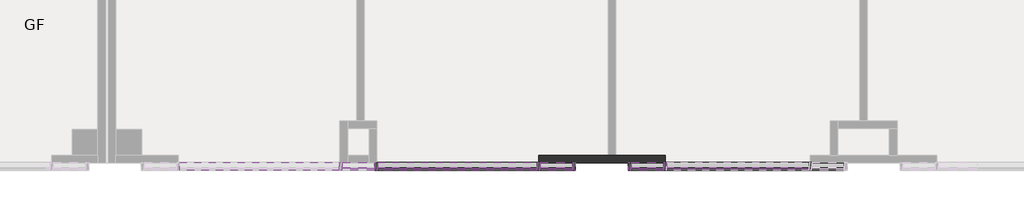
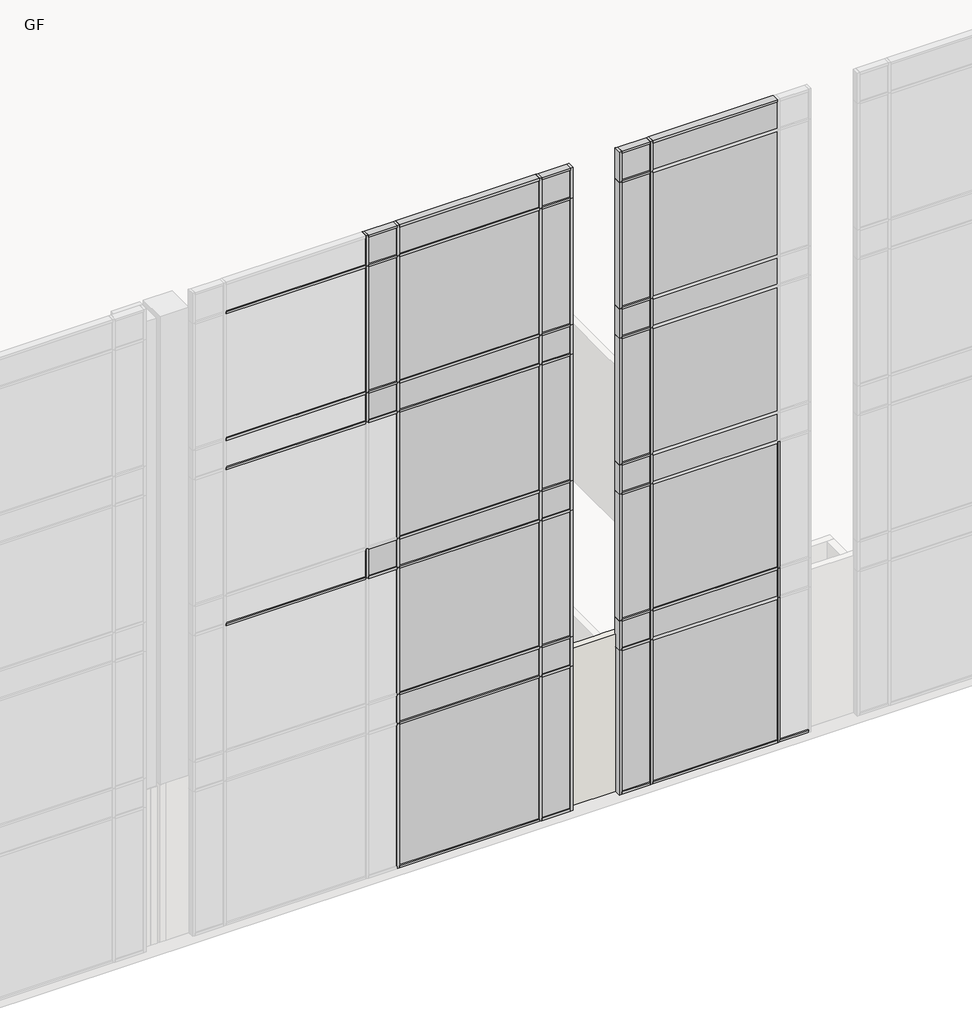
# One storey, part 8 of 23: 87 members, 36 plates, 1 wall.
"""IFC4 building model written with IfcOpenShell, lengths in millimetres."""

from ifc_helpers import new_model, si_unit, origin, place, context, project, spatial, faceted_brep, transform, mapped, element, save
from components import rectangular_mullion_50_x_150mm_64d38db8, rectangular_mullion_50_x_150mm_68b3818a, rectangular_mullion_50_x_150mm_350c86c2, rectangular_mullion_50_x_150mm_f245f1eb, rectangular_mullion_50_x_150mm_5fdcfccd, rectangular_mullion_50_x_150mm_d11e3bb4, rectangular_mullion_50_x_150mm_7d543e93, rectangular_mullion_50_x_150mm_9e0f1e24, rectangular_mullion_50_x_150mm_a95743fc, rectangular_mullion_50_x_150mm_dbb82e9e, rectangular_mullion_50_x_150mm_32aaa733, rectangular_mullion_50_x_150mm_9b8962c0, rectangular_mullion_50_x_150mm_2ef494cb, rectangular_mullion_50_x_150mm_4ae6e471, system_panel_glazed_f9f902e6, system_panel_glazed_bf1ddb54, system_panel_glazed_6ff5b55b, system_panel_glazed_2a2db0e8, system_panel_glazed_93ed122c, system_panel_glazed_c1421171, system_panel_glazed_123eee61, system_panel_glazed_ddb5812e, system_panel_glazed_21c84cce

model = new_model("IFC4")

# Units and contexts
model_context = context("Model", 3, world=origin())
ifc_project = project(units=[si_unit("LENGTHUNIT", "METRE", prefix="MILLI")], contexts=[model_context])

# Site, building, storey
site = spatial("IfcSite", under=ifc_project)
building = spatial("IfcBuilding", under=site)
storey = spatial("IfcBuildingStorey", under=building, Name="GF", Elevation=900.0)

# Members
placement = place(None, origin())
rectangular_mullion_50_x_150mm_shape = rectangular_mullion_50_x_150mm_64d38db8(model_context)
element("IfcMember", 1, ObjectType="Rectangular Mullion : 50 x 150mm", at=placement, inside=storey, context=model_context, shape_type="MappedRepresentation", body=[
    mapped(rectangular_mullion_50_x_150mm_shape, transform((11277.4134101, -25897.6148653, 15125.0), x_axis=(0.0, 0.0, 1.0), y_axis=(0.0, -1.0, 0.0), z_axis=(1.0, 0.0, 0.0))),
])
element("IfcMember", 2, ObjectType="Rectangular Mullion : 50 x 150mm", at=placement, inside=storey, context=model_context, shape_type="MappedRepresentation", body=[
    mapped(rectangular_mullion_50_x_150mm_shape, transform((9607.4134101, -25897.6148653, 15125.0), x_axis=(0.0, 0.0, 1.0), y_axis=(0.0, -1.0, 0.0), z_axis=(1.0, 0.0, 0.0))),
])
element("IfcMember", 3, ObjectType="Rectangular Mullion : 50 x 150mm", at=placement, inside=storey, context=model_context, shape_type="MappedRepresentation", body=[
    mapped(rectangular_mullion_50_x_150mm_shape, transform((5974.9134101, -25897.6148653, 15125.0), x_axis=(0.0, 0.0, 1.0), y_axis=(0.0, -1.0, 0.0), z_axis=(1.0, 0.0, 0.0))),
])
element("IfcMember", 4, ObjectType="Rectangular Mullion : 50 x 150mm", at=placement, inside=storey, context=model_context, shape_type="MappedRepresentation", body=[
    mapped(rectangular_mullion_50_x_150mm_shape, transform((10677.4134101, -25897.6148653, 900.0), x_axis=(0.0, 0.0, -1.0), y_axis=(0.0, -1.0, 0.0), z_axis=(-1.0, 0.0, 0.0))),
])
element("IfcMember", 5, ObjectType="Rectangular Mullion : 50 x 150mm", at=placement, inside=storey, context=model_context, shape_type="MappedRepresentation", body=[
    mapped(rectangular_mullion_50_x_150mm_shape, transform((13992.4134101, -25897.6148653, 900.0), x_axis=(0.0, 0.0, -1.0), y_axis=(0.0, -1.0, 0.0), z_axis=(-1.0, 0.0, 0.0))),
])
element("IfcMember", 6, ObjectType="Rectangular Mullion : 50 x 150mm", at=placement, inside=storey, context=model_context, shape_type="MappedRepresentation", body=[
    mapped(rectangular_mullion_50_x_150mm_shape, transform((9007.4134101, -25897.6148653, 900.0), x_axis=(0.0, 0.0, -1.0), y_axis=(0.0, -1.0, 0.0), z_axis=(-1.0, 0.0, 0.0))),
])
rectangular_mullion_50_x_150mm_2_shape = rectangular_mullion_50_x_150mm_68b3818a(model_context)
element("IfcMember", 7, ObjectType="Rectangular Mullion : 50 x 150mm", at=placement, inside=storey, context=model_context, shape_type="MappedRepresentation", body=[
    mapped(rectangular_mullion_50_x_150mm_2_shape, transform((11277.4134101, -25897.6148653, 4750.0), x_axis=(0.0, 0.0, 1.0), y_axis=(0.0, -1.0, 0.0), z_axis=(1.0, 0.0, 0.0))),
])
element("IfcMember", 8, ObjectType="Rectangular Mullion : 50 x 150mm", at=placement, inside=storey, context=model_context, shape_type="MappedRepresentation", body=[
    mapped(rectangular_mullion_50_x_150mm_2_shape, transform((11277.4134101, -25897.6148653, 4100.0), x_axis=(0.0, 0.0, 1.0), y_axis=(0.0, -1.0, 0.0), z_axis=(1.0, 0.0, 0.0))),
])
element("IfcMember", 9, ObjectType="Rectangular Mullion : 50 x 150mm", at=placement, inside=storey, context=model_context, shape_type="MappedRepresentation", body=[
    mapped(rectangular_mullion_50_x_150mm_2_shape, transform((11277.4134101, -25897.6148653, 8200.0), x_axis=(0.0, 0.0, 1.0), y_axis=(0.0, -1.0, 0.0), z_axis=(1.0, 0.0, 0.0))),
])
element("IfcMember", 10, ObjectType="Rectangular Mullion : 50 x 150mm", at=placement, inside=storey, context=model_context, shape_type="MappedRepresentation", body=[
    mapped(rectangular_mullion_50_x_150mm_2_shape, transform((11277.4134101, -25897.6148653, 11650.0), x_axis=(0.0, 0.0, 1.0), y_axis=(0.0, -1.0, 0.0), z_axis=(1.0, 0.0, 0.0))),
])
element("IfcMember", 11, ObjectType="Rectangular Mullion : 50 x 150mm", at=placement, inside=storey, context=model_context, shape_type="MappedRepresentation", body=[
    mapped(rectangular_mullion_50_x_150mm_2_shape, transform((11277.4134101, -25897.6148653, 7550.0), x_axis=(0.0, 0.0, 1.0), y_axis=(0.0, -1.0, 0.0), z_axis=(1.0, 0.0, 0.0))),
])
element("IfcMember", 12, ObjectType="Rectangular Mullion : 50 x 150mm", at=placement, inside=storey, context=model_context, shape_type="MappedRepresentation", body=[
    mapped(rectangular_mullion_50_x_150mm_2_shape, transform((11277.4134101, -25897.6148653, 11000.0), x_axis=(0.0, 0.0, 1.0), y_axis=(0.0, -1.0, 0.0), z_axis=(1.0, 0.0, 0.0))),
])
element("IfcMember", 13, ObjectType="Rectangular Mullion : 50 x 150mm", at=placement, inside=storey, context=model_context, shape_type="MappedRepresentation", body=[
    mapped(rectangular_mullion_50_x_150mm_2_shape, transform((11277.4134101, -25897.6148653, 14450.0), x_axis=(0.0, 0.0, 1.0), y_axis=(0.0, -1.0, 0.0), z_axis=(1.0, 0.0, 0.0))),
])
element("IfcMember", 14, ObjectType="Rectangular Mullion : 50 x 150mm", at=placement, inside=storey, context=model_context, shape_type="MappedRepresentation", body=[
    mapped(rectangular_mullion_50_x_150mm_2_shape, transform((5974.9134101, -25897.6148653, 11650.0), x_axis=(0.0, 0.0, 1.0), y_axis=(0.0, -1.0, 0.0), z_axis=(1.0, 0.0, 0.0))),
])
element("IfcMember", 15, ObjectType="Rectangular Mullion : 50 x 150mm", at=placement, inside=storey, context=model_context, shape_type="MappedRepresentation", body=[
    mapped(rectangular_mullion_50_x_150mm_2_shape, transform((5974.9134101, -25897.6148653, 7550.0), x_axis=(0.0, 0.0, 1.0), y_axis=(0.0, -1.0, 0.0), z_axis=(1.0, 0.0, 0.0))),
])
element("IfcMember", 16, ObjectType="Rectangular Mullion : 50 x 150mm", at=placement, inside=storey, context=model_context, shape_type="MappedRepresentation", body=[
    mapped(rectangular_mullion_50_x_150mm_2_shape, transform((5974.9134101, -25897.6148653, 11000.0), x_axis=(0.0, 0.0, 1.0), y_axis=(0.0, -1.0, 0.0), z_axis=(1.0, 0.0, 0.0))),
])
element("IfcMember", 17, ObjectType="Rectangular Mullion : 50 x 150mm", at=placement, inside=storey, context=model_context, shape_type="MappedRepresentation", body=[
    mapped(rectangular_mullion_50_x_150mm_2_shape, transform((5974.9134101, -25897.6148653, 14450.0), x_axis=(0.0, 0.0, 1.0), y_axis=(0.0, -1.0, 0.0), z_axis=(1.0, 0.0, 0.0))),
])
element("IfcMember", 18, ObjectType="Rectangular Mullion : 50 x 150mm", at=placement, inside=storey, context=model_context, shape_type="MappedRepresentation", body=[
    mapped(rectangular_mullion_50_x_150mm_2_shape, transform((9607.4134101, -25897.6148653, 4100.0), x_axis=(0.0, 0.0, 1.0), y_axis=(0.0, -1.0, 0.0), z_axis=(1.0, 0.0, 0.0))),
])
element("IfcMember", 19, ObjectType="Rectangular Mullion : 50 x 150mm", at=placement, inside=storey, context=model_context, shape_type="MappedRepresentation", body=[
    mapped(rectangular_mullion_50_x_150mm_2_shape, transform((9607.4134101, -25897.6148653, 4750.0), x_axis=(0.0, 0.0, 1.0), y_axis=(0.0, -1.0, 0.0), z_axis=(1.0, 0.0, 0.0))),
])
element("IfcMember", 20, ObjectType="Rectangular Mullion : 50 x 150mm", at=placement, inside=storey, context=model_context, shape_type="MappedRepresentation", body=[
    mapped(rectangular_mullion_50_x_150mm_2_shape, transform((9607.4134101, -25897.6148653, 7550.0), x_axis=(0.0, 0.0, 1.0), y_axis=(0.0, -1.0, 0.0), z_axis=(1.0, 0.0, 0.0))),
])
element("IfcMember", 21, ObjectType="Rectangular Mullion : 50 x 150mm", at=placement, inside=storey, context=model_context, shape_type="MappedRepresentation", body=[
    mapped(rectangular_mullion_50_x_150mm_2_shape, transform((9607.4134101, -25897.6148653, 8200.0), x_axis=(0.0, 0.0, 1.0), y_axis=(0.0, -1.0, 0.0), z_axis=(1.0, 0.0, 0.0))),
])
element("IfcMember", 22, ObjectType="Rectangular Mullion : 50 x 150mm", at=placement, inside=storey, context=model_context, shape_type="MappedRepresentation", body=[
    mapped(rectangular_mullion_50_x_150mm_2_shape, transform((9607.4134101, -25897.6148653, 11000.0), x_axis=(0.0, 0.0, 1.0), y_axis=(0.0, -1.0, 0.0), z_axis=(1.0, 0.0, 0.0))),
])
element("IfcMember", 23, ObjectType="Rectangular Mullion : 50 x 150mm", at=placement, inside=storey, context=model_context, shape_type="MappedRepresentation", body=[
    mapped(rectangular_mullion_50_x_150mm_2_shape, transform((9607.4134101, -25897.6148653, 11650.0), x_axis=(0.0, 0.0, 1.0), y_axis=(0.0, -1.0, 0.0), z_axis=(1.0, 0.0, 0.0))),
])
element("IfcMember", 24, ObjectType="Rectangular Mullion : 50 x 150mm", at=placement, inside=storey, context=model_context, shape_type="MappedRepresentation", body=[
    mapped(rectangular_mullion_50_x_150mm_2_shape, transform((9607.4134101, -25897.6148653, 14450.0), x_axis=(0.0, 0.0, 1.0), y_axis=(0.0, -1.0, 0.0), z_axis=(1.0, 0.0, 0.0))),
])
rectangular_mullion_50_x_150mm_3_shape = rectangular_mullion_50_x_150mm_350c86c2(model_context)
element("IfcMember", 25, ObjectType="Rectangular Mullion : 50 x 150mm", at=placement, inside=storey, context=model_context, shape_type="MappedRepresentation", body=[
    mapped(rectangular_mullion_50_x_150mm_3_shape, transform((11327.4134101, -25897.6148653, 900.0), x_axis=(0.0, 0.0, -1.0), y_axis=(0.0, -1.0, 0.0), z_axis=(-1.0, 0.0, 0.0))),
])
rectangular_mullion_50_x_150mm_4_shape = rectangular_mullion_50_x_150mm_f245f1eb(model_context)
element("IfcMember", 26, ObjectType="Rectangular Mullion : 50 x 150mm", at=placement, inside=storey, context=model_context, shape_type="MappedRepresentation", body=[
    mapped(rectangular_mullion_50_x_150mm_4_shape, transform((11302.4134101, -25897.6148653, 900.0), x_axis=(1.0, 0.0, 0.0), y_axis=(0.0, -1.0, 0.0), z_axis=(0.0, 0.0, -1.0))),
])
element("IfcMember", 27, ObjectType="Rectangular Mullion : 50 x 150mm", at=placement, inside=storey, context=model_context, shape_type="MappedRepresentation", body=[
    mapped(rectangular_mullion_50_x_150mm_4_shape, transform((13967.4134101, -25897.6148653, 900.0), x_axis=(1.0, 0.0, 0.0), y_axis=(0.0, -1.0, 0.0), z_axis=(0.0, 0.0, -1.0))),
])
element("IfcMember", 28, ObjectType="Rectangular Mullion : 50 x 150mm", at=placement, inside=storey, context=model_context, shape_type="MappedRepresentation", body=[
    mapped(rectangular_mullion_50_x_150mm_4_shape, transform((5999.9134101, -25897.6148653, 900.0), x_axis=(1.0, 0.0, 0.0), y_axis=(0.0, -1.0, 0.0), z_axis=(0.0, 0.0, -1.0))),
])
element("IfcMember", 29, ObjectType="Rectangular Mullion : 50 x 150mm", at=placement, inside=storey, context=model_context, shape_type="MappedRepresentation", body=[
    mapped(rectangular_mullion_50_x_150mm_4_shape, transform((8982.4134101, -25897.6148653, 900.0), x_axis=(1.0, 0.0, 0.0), y_axis=(0.0, -1.0, 0.0), z_axis=(0.0, 0.0, -1.0))),
])
element("IfcMember", 30, ObjectType="Rectangular Mullion : 50 x 150mm", at=placement, inside=storey, context=model_context, shape_type="MappedRepresentation", body=[
    mapped(rectangular_mullion_50_x_150mm_3_shape, transform((13942.4134101, -25897.6148653, 15125.0), x_axis=(0.0, 0.0, 1.0), y_axis=(0.0, -1.0, 0.0), z_axis=(1.0, 0.0, 0.0))),
])
rectangular_mullion_50_x_150mm_5_shape = rectangular_mullion_50_x_150mm_5fdcfccd(model_context)
element("IfcMember", 31, ObjectType="Rectangular Mullion : 50 x 150mm", at=placement, inside=storey, context=model_context, shape_type="MappedRepresentation", body=[
    mapped(rectangular_mullion_50_x_150mm_5_shape, transform((13942.4134101, -25897.6148653, 4750.0), x_axis=(0.0, 0.0, 1.0), y_axis=(0.0, -1.0, 0.0), z_axis=(1.0, 0.0, 0.0))),
])
rectangular_mullion_50_x_150mm_6_shape = rectangular_mullion_50_x_150mm_d11e3bb4(model_context)
element("IfcMember", 32, ObjectType="Rectangular Mullion : 50 x 150mm", at=placement, inside=storey, context=model_context, shape_type="MappedRepresentation", body=[
    mapped(rectangular_mullion_50_x_150mm_6_shape, transform((11302.4134101, -25897.6148653, 4750.0), x_axis=(1.0, 0.0, 0.0), y_axis=(0.0, -1.0, 0.0), z_axis=(0.0, 0.0, -1.0))),
])
element("IfcMember", 33, ObjectType="Rectangular Mullion : 50 x 150mm", at=placement, inside=storey, context=model_context, shape_type="MappedRepresentation", body=[
    mapped(rectangular_mullion_50_x_150mm_6_shape, transform((13967.4134101, -25897.6148653, 4750.0), x_axis=(1.0, 0.0, 0.0), y_axis=(0.0, -1.0, 0.0), z_axis=(0.0, 0.0, -1.0))),
])
element("IfcMember", 34, ObjectType="Rectangular Mullion : 50 x 150mm", at=placement, inside=storey, context=model_context, shape_type="MappedRepresentation", body=[
    mapped(rectangular_mullion_50_x_150mm_6_shape, transform((11302.4134101, -25897.6148653, 8200.0), x_axis=(1.0, 0.0, 0.0), y_axis=(0.0, -1.0, 0.0), z_axis=(0.0, 0.0, -1.0))),
])
element("IfcMember", 35, ObjectType="Rectangular Mullion : 50 x 150mm", at=placement, inside=storey, context=model_context, shape_type="MappedRepresentation", body=[
    mapped(rectangular_mullion_50_x_150mm_6_shape, transform((11302.4134101, -25897.6148653, 11650.0), x_axis=(1.0, 0.0, 0.0), y_axis=(0.0, -1.0, 0.0), z_axis=(0.0, 0.0, -1.0))),
])
element("IfcMember", 36, ObjectType="Rectangular Mullion : 50 x 150mm", at=placement, inside=storey, context=model_context, shape_type="MappedRepresentation", body=[
    mapped(rectangular_mullion_50_x_150mm_6_shape, transform((5349.9134101, -25897.6148653, 11650.0), x_axis=(1.0, 0.0, 0.0), y_axis=(0.0, -1.0, 0.0), z_axis=(0.0, 0.0, -1.0))),
])
element("IfcMember", 37, ObjectType="Rectangular Mullion : 50 x 150mm", at=placement, inside=storey, context=model_context, shape_type="MappedRepresentation", body=[
    mapped(rectangular_mullion_50_x_150mm_6_shape, transform((5999.9134101, -25897.6148653, 4750.0), x_axis=(1.0, 0.0, 0.0), y_axis=(0.0, -1.0, 0.0), z_axis=(0.0, 0.0, -1.0))),
])
element("IfcMember", 38, ObjectType="Rectangular Mullion : 50 x 150mm", at=placement, inside=storey, context=model_context, shape_type="MappedRepresentation", body=[
    mapped(rectangular_mullion_50_x_150mm_6_shape, transform((5999.9134101, -25897.6148653, 8200.0), x_axis=(1.0, 0.0, 0.0), y_axis=(0.0, -1.0, 0.0), z_axis=(0.0, 0.0, -1.0))),
])
element("IfcMember", 39, ObjectType="Rectangular Mullion : 50 x 150mm", at=placement, inside=storey, context=model_context, shape_type="MappedRepresentation", body=[
    mapped(rectangular_mullion_50_x_150mm_6_shape, transform((5999.9134101, -25897.6148653, 11650.0), x_axis=(1.0, 0.0, 0.0), y_axis=(0.0, -1.0, 0.0), z_axis=(0.0, 0.0, -1.0))),
])
element("IfcMember", 40, ObjectType="Rectangular Mullion : 50 x 150mm", at=placement, inside=storey, context=model_context, shape_type="MappedRepresentation", body=[
    mapped(rectangular_mullion_50_x_150mm_6_shape, transform((8982.4134101, -25897.6148653, 4750.0), x_axis=(1.0, 0.0, 0.0), y_axis=(0.0, -1.0, 0.0), z_axis=(0.0, 0.0, -1.0))),
])
element("IfcMember", 41, ObjectType="Rectangular Mullion : 50 x 150mm", at=placement, inside=storey, context=model_context, shape_type="MappedRepresentation", body=[
    mapped(rectangular_mullion_50_x_150mm_6_shape, transform((8982.4134101, -25897.6148653, 8200.0), x_axis=(1.0, 0.0, 0.0), y_axis=(0.0, -1.0, 0.0), z_axis=(0.0, 0.0, -1.0))),
])
element("IfcMember", 42, ObjectType="Rectangular Mullion : 50 x 150mm", at=placement, inside=storey, context=model_context, shape_type="MappedRepresentation", body=[
    mapped(rectangular_mullion_50_x_150mm_6_shape, transform((8982.4134101, -25897.6148653, 11650.0), x_axis=(1.0, 0.0, 0.0), y_axis=(0.0, -1.0, 0.0), z_axis=(0.0, 0.0, -1.0))),
])
rectangular_mullion_50_x_150mm_7_shape = rectangular_mullion_50_x_150mm_7d543e93(model_context)
element("IfcMember", 43, ObjectType="Rectangular Mullion : 50 x 150mm", at=placement, inside=storey, context=model_context, shape_type="MappedRepresentation", body=[
    mapped(rectangular_mullion_50_x_150mm_7_shape, transform((11302.4134101, -25897.6148653, 4100.0), x_axis=(1.0, 0.0, 0.0), y_axis=(0.0, -1.0, 0.0), z_axis=(0.0, 0.0, -1.0))),
])
element("IfcMember", 44, ObjectType="Rectangular Mullion : 50 x 150mm", at=placement, inside=storey, context=model_context, shape_type="MappedRepresentation", body=[
    mapped(rectangular_mullion_50_x_150mm_7_shape, transform((13967.4134101, -25897.6148653, 4100.0), x_axis=(1.0, 0.0, 0.0), y_axis=(0.0, -1.0, 0.0), z_axis=(0.0, 0.0, -1.0))),
])
element("IfcMember", 45, ObjectType="Rectangular Mullion : 50 x 150mm", at=placement, inside=storey, context=model_context, shape_type="MappedRepresentation", body=[
    mapped(rectangular_mullion_50_x_150mm_7_shape, transform((11302.4134101, -25897.6148653, 7550.0), x_axis=(1.0, 0.0, 0.0), y_axis=(0.0, -1.0, 0.0), z_axis=(0.0, 0.0, -1.0))),
])
element("IfcMember", 46, ObjectType="Rectangular Mullion : 50 x 150mm", at=placement, inside=storey, context=model_context, shape_type="MappedRepresentation", body=[
    mapped(rectangular_mullion_50_x_150mm_7_shape, transform((11302.4134101, -25897.6148653, 11000.0), x_axis=(1.0, 0.0, 0.0), y_axis=(0.0, -1.0, 0.0), z_axis=(0.0, 0.0, -1.0))),
])
element("IfcMember", 47, ObjectType="Rectangular Mullion : 50 x 150mm", at=placement, inside=storey, context=model_context, shape_type="MappedRepresentation", body=[
    mapped(rectangular_mullion_50_x_150mm_7_shape, transform((5349.9134101, -25897.6148653, 7550.0), x_axis=(1.0, 0.0, 0.0), y_axis=(0.0, -1.0, 0.0), z_axis=(0.0, 0.0, -1.0))),
])
element("IfcMember", 48, ObjectType="Rectangular Mullion : 50 x 150mm", at=placement, inside=storey, context=model_context, shape_type="MappedRepresentation", body=[
    mapped(rectangular_mullion_50_x_150mm_7_shape, transform((5349.9134101, -25897.6148653, 11000.0), x_axis=(1.0, 0.0, 0.0), y_axis=(0.0, -1.0, 0.0), z_axis=(0.0, 0.0, -1.0))),
])
element("IfcMember", 49, ObjectType="Rectangular Mullion : 50 x 150mm", at=placement, inside=storey, context=model_context, shape_type="MappedRepresentation", body=[
    mapped(rectangular_mullion_50_x_150mm_7_shape, transform((5999.9134101, -25897.6148653, 4100.0), x_axis=(1.0, 0.0, 0.0), y_axis=(0.0, -1.0, 0.0), z_axis=(0.0, 0.0, -1.0))),
])
element("IfcMember", 50, ObjectType="Rectangular Mullion : 50 x 150mm", at=placement, inside=storey, context=model_context, shape_type="MappedRepresentation", body=[
    mapped(rectangular_mullion_50_x_150mm_7_shape, transform((5999.9134101, -25897.6148653, 7550.0), x_axis=(1.0, 0.0, 0.0), y_axis=(0.0, -1.0, 0.0), z_axis=(0.0, 0.0, -1.0))),
])
element("IfcMember", 51, ObjectType="Rectangular Mullion : 50 x 150mm", at=placement, inside=storey, context=model_context, shape_type="MappedRepresentation", body=[
    mapped(rectangular_mullion_50_x_150mm_7_shape, transform((5999.9134101, -25897.6148653, 11000.0), x_axis=(1.0, 0.0, 0.0), y_axis=(0.0, -1.0, 0.0), z_axis=(0.0, 0.0, -1.0))),
])
element("IfcMember", 52, ObjectType="Rectangular Mullion : 50 x 150mm", at=placement, inside=storey, context=model_context, shape_type="MappedRepresentation", body=[
    mapped(rectangular_mullion_50_x_150mm_7_shape, transform((8982.4134101, -25897.6148653, 4100.0), x_axis=(1.0, 0.0, 0.0), y_axis=(0.0, -1.0, 0.0), z_axis=(0.0, 0.0, -1.0))),
])
element("IfcMember", 53, ObjectType="Rectangular Mullion : 50 x 150mm", at=placement, inside=storey, context=model_context, shape_type="MappedRepresentation", body=[
    mapped(rectangular_mullion_50_x_150mm_7_shape, transform((8982.4134101, -25897.6148653, 7550.0), x_axis=(1.0, 0.0, 0.0), y_axis=(0.0, -1.0, 0.0), z_axis=(0.0, 0.0, -1.0))),
])
element("IfcMember", 54, ObjectType="Rectangular Mullion : 50 x 150mm", at=placement, inside=storey, context=model_context, shape_type="MappedRepresentation", body=[
    mapped(rectangular_mullion_50_x_150mm_7_shape, transform((8982.4134101, -25897.6148653, 11000.0), x_axis=(1.0, 0.0, 0.0), y_axis=(0.0, -1.0, 0.0), z_axis=(0.0, 0.0, -1.0))),
])
rectangular_mullion_50_x_150mm_8_shape = rectangular_mullion_50_x_150mm_9e0f1e24(model_context)
element("IfcMember", 55, ObjectType="Rectangular Mullion : 50 x 150mm", at=placement, inside=storey, context=model_context, shape_type="MappedRepresentation", body=[
    mapped(rectangular_mullion_50_x_150mm_8_shape, transform((11302.4134101, -25897.6148653, 14450.0), x_axis=(1.0, 0.0, 0.0), y_axis=(0.0, -1.0, 0.0), z_axis=(0.0, 0.0, -1.0))),
])
element("IfcMember", 56, ObjectType="Rectangular Mullion : 50 x 150mm", at=placement, inside=storey, context=model_context, shape_type="MappedRepresentation", body=[
    mapped(rectangular_mullion_50_x_150mm_8_shape, transform((5349.9134101, -25897.6148653, 14450.0), x_axis=(1.0, 0.0, 0.0), y_axis=(0.0, -1.0, 0.0), z_axis=(0.0, 0.0, -1.0))),
])
element("IfcMember", 57, ObjectType="Rectangular Mullion : 50 x 150mm", at=placement, inside=storey, context=model_context, shape_type="MappedRepresentation", body=[
    mapped(rectangular_mullion_50_x_150mm_8_shape, transform((5999.9134101, -25897.6148653, 14450.0), x_axis=(1.0, 0.0, 0.0), y_axis=(0.0, -1.0, 0.0), z_axis=(0.0, 0.0, -1.0))),
])
element("IfcMember", 58, ObjectType="Rectangular Mullion : 50 x 150mm", at=placement, inside=storey, context=model_context, shape_type="MappedRepresentation", body=[
    mapped(rectangular_mullion_50_x_150mm_8_shape, transform((8982.4134101, -25897.6148653, 14450.0), x_axis=(1.0, 0.0, 0.0), y_axis=(0.0, -1.0, 0.0), z_axis=(0.0, 0.0, -1.0))),
])
rectangular_mullion_50_x_150mm_9_shape = rectangular_mullion_50_x_150mm_a95743fc(model_context)
element("IfcMember", 59, ObjectType="Rectangular Mullion : 50 x 150mm", at=placement, inside=storey, context=model_context, shape_type="MappedRepresentation", body=[
    mapped(rectangular_mullion_50_x_150mm_9_shape, transform((9657.4134101, -25897.6148653, 900.0), x_axis=(1.0, 0.0, 0.0), y_axis=(0.0, -1.0, 0.0), z_axis=(0.0, 0.0, -1.0))),
])
rectangular_mullion_50_x_150mm_10_shape = rectangular_mullion_50_x_150mm_dbb82e9e(model_context)
element("IfcMember", 60, ObjectType="Rectangular Mullion : 50 x 150mm", at=placement, inside=storey, context=model_context, shape_type="MappedRepresentation", body=[
    mapped(rectangular_mullion_50_x_150mm_10_shape, transform((10627.4134101, -25897.6148653, 15125.0), x_axis=(-1.0, 0.0, 0.0), y_axis=(0.0, -1.0, 0.0), z_axis=(0.0, 0.0, 1.0))),
])
rectangular_mullion_50_x_150mm_11_shape = rectangular_mullion_50_x_150mm_32aaa733(model_context)
element("IfcMember", 61, ObjectType="Rectangular Mullion : 50 x 150mm", at=placement, inside=storey, context=model_context, shape_type="MappedRepresentation", body=[
    mapped(rectangular_mullion_50_x_150mm_11_shape, transform((9657.4134101, -25897.6148653, 4750.0), x_axis=(1.0, 0.0, 0.0), y_axis=(0.0, -1.0, 0.0), z_axis=(0.0, 0.0, -1.0))),
])
element("IfcMember", 62, ObjectType="Rectangular Mullion : 50 x 150mm", at=placement, inside=storey, context=model_context, shape_type="MappedRepresentation", body=[
    mapped(rectangular_mullion_50_x_150mm_11_shape, transform((9657.4134101, -25897.6148653, 8200.0), x_axis=(1.0, 0.0, 0.0), y_axis=(0.0, -1.0, 0.0), z_axis=(0.0, 0.0, -1.0))),
])
element("IfcMember", 63, ObjectType="Rectangular Mullion : 50 x 150mm", at=placement, inside=storey, context=model_context, shape_type="MappedRepresentation", body=[
    mapped(rectangular_mullion_50_x_150mm_11_shape, transform((9657.4134101, -25897.6148653, 11650.0), x_axis=(1.0, 0.0, 0.0), y_axis=(0.0, -1.0, 0.0), z_axis=(0.0, 0.0, -1.0))),
])
rectangular_mullion_50_x_150mm_12_shape = rectangular_mullion_50_x_150mm_9b8962c0(model_context)
element("IfcMember", 64, ObjectType="Rectangular Mullion : 50 x 150mm", at=placement, inside=storey, context=model_context, shape_type="MappedRepresentation", body=[
    mapped(rectangular_mullion_50_x_150mm_12_shape, transform((10627.4134101, -25897.6148653, 4750.0), x_axis=(-1.0, 0.0, 0.0), y_axis=(0.0, -1.0, 0.0), z_axis=(0.0, 0.0, 1.0))),
])
element("IfcMember", 65, ObjectType="Rectangular Mullion : 50 x 150mm", at=placement, inside=storey, context=model_context, shape_type="MappedRepresentation", body=[
    mapped(rectangular_mullion_50_x_150mm_12_shape, transform((10627.4134101, -25897.6148653, 8200.0), x_axis=(-1.0, 0.0, 0.0), y_axis=(0.0, -1.0, 0.0), z_axis=(0.0, 0.0, 1.0))),
])
element("IfcMember", 66, ObjectType="Rectangular Mullion : 50 x 150mm", at=placement, inside=storey, context=model_context, shape_type="MappedRepresentation", body=[
    mapped(rectangular_mullion_50_x_150mm_12_shape, transform((10627.4134101, -25897.6148653, 11650.0), x_axis=(-1.0, 0.0, 0.0), y_axis=(0.0, -1.0, 0.0), z_axis=(0.0, 0.0, 1.0))),
])
element("IfcMember", 67, ObjectType="Rectangular Mullion : 50 x 150mm", at=placement, inside=storey, context=model_context, shape_type="MappedRepresentation", body=[
    mapped(rectangular_mullion_50_x_150mm_12_shape, transform((9657.4134101, -25897.6148653, 4100.0), x_axis=(1.0, 0.0, 0.0), y_axis=(0.0, -1.0, 0.0), z_axis=(0.0, 0.0, -1.0))),
])
element("IfcMember", 68, ObjectType="Rectangular Mullion : 50 x 150mm", at=placement, inside=storey, context=model_context, shape_type="MappedRepresentation", body=[
    mapped(rectangular_mullion_50_x_150mm_12_shape, transform((9657.4134101, -25897.6148653, 7550.0), x_axis=(1.0, 0.0, 0.0), y_axis=(0.0, -1.0, 0.0), z_axis=(0.0, 0.0, -1.0))),
])
element("IfcMember", 69, ObjectType="Rectangular Mullion : 50 x 150mm", at=placement, inside=storey, context=model_context, shape_type="MappedRepresentation", body=[
    mapped(rectangular_mullion_50_x_150mm_12_shape, transform((9657.4134101, -25897.6148653, 11000.0), x_axis=(1.0, 0.0, 0.0), y_axis=(0.0, -1.0, 0.0), z_axis=(0.0, 0.0, -1.0))),
])
element("IfcMember", 70, ObjectType="Rectangular Mullion : 50 x 150mm", at=placement, inside=storey, context=model_context, shape_type="MappedRepresentation", body=[
    mapped(rectangular_mullion_50_x_150mm_9_shape, transform((10627.4134101, -25897.6148653, 4100.0), x_axis=(-1.0, 0.0, 0.0), y_axis=(0.0, -1.0, 0.0), z_axis=(0.0, 0.0, 1.0))),
])
element("IfcMember", 71, ObjectType="Rectangular Mullion : 50 x 150mm", at=placement, inside=storey, context=model_context, shape_type="MappedRepresentation", body=[
    mapped(rectangular_mullion_50_x_150mm_11_shape, transform((10627.4134101, -25897.6148653, 7550.0), x_axis=(-1.0, 0.0, 0.0), y_axis=(0.0, -1.0, 0.0), z_axis=(0.0, 0.0, 1.0))),
])
element("IfcMember", 72, ObjectType="Rectangular Mullion : 50 x 150mm", at=placement, inside=storey, context=model_context, shape_type="MappedRepresentation", body=[
    mapped(rectangular_mullion_50_x_150mm_11_shape, transform((10627.4134101, -25897.6148653, 11000.0), x_axis=(-1.0, 0.0, 0.0), y_axis=(0.0, -1.0, 0.0), z_axis=(0.0, 0.0, 1.0))),
])
element("IfcMember", 73, ObjectType="Rectangular Mullion : 50 x 150mm", at=placement, inside=storey, context=model_context, shape_type="MappedRepresentation", body=[
    mapped(rectangular_mullion_50_x_150mm_11_shape, transform((10627.4134101, -25897.6148653, 14450.0), x_axis=(-1.0, 0.0, 0.0), y_axis=(0.0, -1.0, 0.0), z_axis=(0.0, 0.0, 1.0))),
])
element("IfcMember", 74, ObjectType="Rectangular Mullion : 50 x 150mm", at=placement, inside=storey, context=model_context, shape_type="MappedRepresentation", body=[
    mapped(rectangular_mullion_50_x_150mm_10_shape, transform((9657.4134101, -25897.6148653, 14450.0), x_axis=(1.0, 0.0, 0.0), y_axis=(0.0, -1.0, 0.0), z_axis=(0.0, 0.0, -1.0))),
])
rectangular_mullion_50_x_150mm_13_shape = rectangular_mullion_50_x_150mm_2ef494cb(model_context)
element("IfcMember", 75, ObjectType="Rectangular Mullion : 50 x 150mm", at=placement, inside=storey, context=model_context, shape_type="MappedRepresentation", body=[
    mapped(rectangular_mullion_50_x_150mm_13_shape, transform((6024.9134101, -25897.6148653, 900.0), x_axis=(0.0, 0.0, -1.0), y_axis=(0.0, -1.0, 0.0), z_axis=(-1.0, 0.0, 0.0))),
])
element("IfcMember", 76, ObjectType="Rectangular Mullion : 50 x 150mm", at=placement, inside=storey, context=model_context, shape_type="MappedRepresentation", body=[
    mapped(rectangular_mullion_50_x_150mm_13_shape, transform((8957.4134101, -25897.6148653, 15125.0), x_axis=(0.0, 0.0, 1.0), y_axis=(0.0, -1.0, 0.0), z_axis=(1.0, 0.0, 0.0))),
])
rectangular_mullion_50_x_150mm_14_shape = rectangular_mullion_50_x_150mm_4ae6e471(model_context)
element("IfcMember", 77, ObjectType="Rectangular Mullion : 50 x 150mm", at=placement, inside=storey, context=model_context, shape_type="MappedRepresentation", body=[
    mapped(rectangular_mullion_50_x_150mm_14_shape, transform((5324.9134101, -25897.6148653, 11650.0), x_axis=(0.0, 0.0, 1.0), y_axis=(0.0, -1.0, 0.0), z_axis=(1.0, 0.0, 0.0))),
])
element("IfcMember", 78, ObjectType="Rectangular Mullion : 50 x 150mm", at=placement, inside=storey, context=model_context, shape_type="MappedRepresentation", body=[
    mapped(rectangular_mullion_50_x_150mm_14_shape, transform((5324.9134101, -25897.6148653, 7550.0), x_axis=(0.0, 0.0, 1.0), y_axis=(0.0, -1.0, 0.0), z_axis=(1.0, 0.0, 0.0))),
])
element("IfcMember", 79, ObjectType="Rectangular Mullion : 50 x 150mm", at=placement, inside=storey, context=model_context, shape_type="MappedRepresentation", body=[
    mapped(rectangular_mullion_50_x_150mm_14_shape, transform((5324.9134101, -25897.6148653, 11000.0), x_axis=(0.0, 0.0, 1.0), y_axis=(0.0, -1.0, 0.0), z_axis=(1.0, 0.0, 0.0))),
])
element("IfcMember", 80, ObjectType="Rectangular Mullion : 50 x 150mm", at=placement, inside=storey, context=model_context, shape_type="MappedRepresentation", body=[
    mapped(rectangular_mullion_50_x_150mm_14_shape, transform((5324.9134101, -25897.6148653, 14450.0), x_axis=(0.0, 0.0, 1.0), y_axis=(0.0, -1.0, 0.0), z_axis=(1.0, 0.0, 0.0))),
])
element("IfcMember", 81, ObjectType="Rectangular Mullion : 50 x 150mm", at=placement, inside=storey, context=model_context, shape_type="MappedRepresentation", body=[
    mapped(rectangular_mullion_50_x_150mm_14_shape, transform((8957.4134101, -25897.6148653, 4100.0), x_axis=(0.0, 0.0, 1.0), y_axis=(0.0, -1.0, 0.0), z_axis=(1.0, 0.0, 0.0))),
])
element("IfcMember", 82, ObjectType="Rectangular Mullion : 50 x 150mm", at=placement, inside=storey, context=model_context, shape_type="MappedRepresentation", body=[
    mapped(rectangular_mullion_50_x_150mm_14_shape, transform((8957.4134101, -25897.6148653, 4750.0), x_axis=(0.0, 0.0, 1.0), y_axis=(0.0, -1.0, 0.0), z_axis=(1.0, 0.0, 0.0))),
])
element("IfcMember", 83, ObjectType="Rectangular Mullion : 50 x 150mm", at=placement, inside=storey, context=model_context, shape_type="MappedRepresentation", body=[
    mapped(rectangular_mullion_50_x_150mm_14_shape, transform((8957.4134101, -25897.6148653, 7550.0), x_axis=(0.0, 0.0, 1.0), y_axis=(0.0, -1.0, 0.0), z_axis=(1.0, 0.0, 0.0))),
])
element("IfcMember", 84, ObjectType="Rectangular Mullion : 50 x 150mm", at=placement, inside=storey, context=model_context, shape_type="MappedRepresentation", body=[
    mapped(rectangular_mullion_50_x_150mm_14_shape, transform((8957.4134101, -25897.6148653, 8200.0), x_axis=(0.0, 0.0, 1.0), y_axis=(0.0, -1.0, 0.0), z_axis=(1.0, 0.0, 0.0))),
])
element("IfcMember", 85, ObjectType="Rectangular Mullion : 50 x 150mm", at=placement, inside=storey, context=model_context, shape_type="MappedRepresentation", body=[
    mapped(rectangular_mullion_50_x_150mm_14_shape, transform((8957.4134101, -25897.6148653, 11000.0), x_axis=(0.0, 0.0, 1.0), y_axis=(0.0, -1.0, 0.0), z_axis=(1.0, 0.0, 0.0))),
])
element("IfcMember", 86, ObjectType="Rectangular Mullion : 50 x 150mm", at=placement, inside=storey, context=model_context, shape_type="MappedRepresentation", body=[
    mapped(rectangular_mullion_50_x_150mm_14_shape, transform((8957.4134101, -25897.6148653, 11650.0), x_axis=(0.0, 0.0, 1.0), y_axis=(0.0, -1.0, 0.0), z_axis=(1.0, 0.0, 0.0))),
])
element("IfcMember", 87, ObjectType="Rectangular Mullion : 50 x 150mm", at=placement, inside=storey, context=model_context, shape_type="MappedRepresentation", body=[
    mapped(rectangular_mullion_50_x_150mm_14_shape, transform((8957.4134101, -25897.6148653, 14450.0), x_axis=(0.0, 0.0, 1.0), y_axis=(0.0, -1.0, 0.0), z_axis=(1.0, 0.0, 0.0))),
])

# Plates
system_panel_glazed_shape = system_panel_glazed_f9f902e6(model_context)
element("IfcPlate", 88, ObjectType="System Panel : Glazed", at=placement, inside=storey, context=model_context, shape_type="MappedRepresentation", body=[
    mapped(system_panel_glazed_shape, transform((10977.4134101, -25897.6148653, 950.0), x_axis=(1.0, 0.0, 0.0), y_axis=(0.0, 1.0, 0.0), z_axis=(0.0, 0.0, 1.0))),
])
element("IfcPlate", 89, ObjectType="System Panel : Glazed", at=placement, inside=storey, context=model_context, shape_type="MappedRepresentation", body=[
    mapped(system_panel_glazed_shape, transform((9307.4134101, -25897.6148653, 950.0), x_axis=(1.0, 0.0, 0.0), y_axis=(0.0, 1.0, 0.0), z_axis=(0.0, 0.0, 1.0))),
])
system_panel_glazed_2_shape = system_panel_glazed_bf1ddb54(model_context)
element("IfcPlate", 90, ObjectType="System Panel : Glazed", at=placement, inside=storey, context=model_context, shape_type="MappedRepresentation", body=[
    mapped(system_panel_glazed_2_shape, transform((12634.9134101, -25897.6148653, 950.0), x_axis=(1.0, 0.0, 0.0), y_axis=(0.0, 1.0, 0.0), z_axis=(0.0, 0.0, 1.0))),
])
system_panel_glazed_3_shape = system_panel_glazed_6ff5b55b(model_context)
element("IfcPlate", 91, ObjectType="System Panel : Glazed", at=placement, inside=storey, context=model_context, shape_type="MappedRepresentation", body=[
    mapped(system_panel_glazed_3_shape, transform((10977.4134101, -25897.6148653, 4775.0), x_axis=(1.0, 0.0, 0.0), y_axis=(0.0, 1.0, 0.0), z_axis=(0.0, 0.0, 1.0))),
])
element("IfcPlate", 92, ObjectType="System Panel : Glazed", at=placement, inside=storey, context=model_context, shape_type="MappedRepresentation", body=[
    mapped(system_panel_glazed_3_shape, transform((10977.4134101, -25897.6148653, 8225.0), x_axis=(1.0, 0.0, 0.0), y_axis=(0.0, 1.0, 0.0), z_axis=(0.0, 0.0, 1.0))),
])
element("IfcPlate", 93, ObjectType="System Panel : Glazed", at=placement, inside=storey, context=model_context, shape_type="MappedRepresentation", body=[
    mapped(system_panel_glazed_3_shape, transform((10977.4134101, -25897.6148653, 11675.0), x_axis=(1.0, 0.0, 0.0), y_axis=(0.0, 1.0, 0.0), z_axis=(0.0, 0.0, 1.0))),
])
element("IfcPlate", 94, ObjectType="System Panel : Glazed", at=placement, inside=storey, context=model_context, shape_type="MappedRepresentation", body=[
    mapped(system_panel_glazed_3_shape, transform((5674.9134101, -25897.6148653, 11675.0), x_axis=(1.0, 0.0, 0.0), y_axis=(0.0, 1.0, 0.0), z_axis=(0.0, 0.0, 1.0))),
])
element("IfcPlate", 95, ObjectType="System Panel : Glazed", at=placement, inside=storey, context=model_context, shape_type="MappedRepresentation", body=[
    mapped(system_panel_glazed_3_shape, transform((9307.4134101, -25897.6148653, 4775.0), x_axis=(1.0, 0.0, 0.0), y_axis=(0.0, 1.0, 0.0), z_axis=(0.0, 0.0, 1.0))),
])
element("IfcPlate", 96, ObjectType="System Panel : Glazed", at=placement, inside=storey, context=model_context, shape_type="MappedRepresentation", body=[
    mapped(system_panel_glazed_3_shape, transform((9307.4134101, -25897.6148653, 8225.0), x_axis=(1.0, 0.0, 0.0), y_axis=(0.0, 1.0, 0.0), z_axis=(0.0, 0.0, 1.0))),
])
element("IfcPlate", 97, ObjectType="System Panel : Glazed", at=placement, inside=storey, context=model_context, shape_type="MappedRepresentation", body=[
    mapped(system_panel_glazed_3_shape, transform((9307.4134101, -25897.6148653, 11675.0), x_axis=(1.0, 0.0, 0.0), y_axis=(0.0, 1.0, 0.0), z_axis=(0.0, 0.0, 1.0))),
])
system_panel_glazed_4_shape = system_panel_glazed_2a2db0e8(model_context)
element("IfcPlate", 98, ObjectType="System Panel : Glazed", at=placement, inside=storey, context=model_context, shape_type="MappedRepresentation", body=[
    mapped(system_panel_glazed_4_shape, transform((12634.9134101, -25897.6148653, 4775.0), x_axis=(1.0, 0.0, 0.0), y_axis=(0.0, 1.0, 0.0), z_axis=(0.0, 0.0, 1.0))),
])
element("IfcPlate", 99, ObjectType="System Panel : Glazed", at=placement, inside=storey, context=model_context, shape_type="MappedRepresentation", body=[
    mapped(system_panel_glazed_4_shape, transform((12634.9134101, -25897.6148653, 8225.0), x_axis=(1.0, 0.0, 0.0), y_axis=(0.0, 1.0, 0.0), z_axis=(0.0, 0.0, 1.0))),
])
element("IfcPlate", 100, ObjectType="System Panel : Glazed", at=placement, inside=storey, context=model_context, shape_type="MappedRepresentation", body=[
    mapped(system_panel_glazed_4_shape, transform((12634.9134101, -25897.6148653, 11675.0), x_axis=(1.0, 0.0, 0.0), y_axis=(0.0, 1.0, 0.0), z_axis=(0.0, 0.0, 1.0))),
])
system_panel_glazed_5_shape = system_panel_glazed_93ed122c(model_context)
element("IfcPlate", 101, ObjectType="System Panel : Glazed", at=placement, inside=storey, context=model_context, shape_type="MappedRepresentation", body=[
    mapped(system_panel_glazed_5_shape, transform((10977.4134101, -25897.6148653, 4125.0), x_axis=(1.0, 0.0, 0.0), y_axis=(0.0, 1.0, 0.0), z_axis=(0.0, 0.0, 1.0))),
])
element("IfcPlate", 102, ObjectType="System Panel : Glazed", at=placement, inside=storey, context=model_context, shape_type="MappedRepresentation", body=[
    mapped(system_panel_glazed_5_shape, transform((10977.4134101, -25897.6148653, 7575.0), x_axis=(1.0, 0.0, 0.0), y_axis=(0.0, 1.0, 0.0), z_axis=(0.0, 0.0, 1.0))),
])
element("IfcPlate", 103, ObjectType="System Panel : Glazed", at=placement, inside=storey, context=model_context, shape_type="MappedRepresentation", body=[
    mapped(system_panel_glazed_5_shape, transform((10977.4134101, -25897.6148653, 11025.0), x_axis=(1.0, 0.0, 0.0), y_axis=(0.0, 1.0, 0.0), z_axis=(0.0, 0.0, 1.0))),
])
element("IfcPlate", 104, ObjectType="System Panel : Glazed", at=placement, inside=storey, context=model_context, shape_type="MappedRepresentation", body=[
    mapped(system_panel_glazed_5_shape, transform((10977.4134101, -25897.6148653, 14475.0), x_axis=(1.0, 0.0, 0.0), y_axis=(0.0, 1.0, 0.0), z_axis=(0.0, 0.0, 1.0))),
])
element("IfcPlate", 105, ObjectType="System Panel : Glazed", at=placement, inside=storey, context=model_context, shape_type="MappedRepresentation", body=[
    mapped(system_panel_glazed_5_shape, transform((5674.9134101, -25897.6148653, 7575.0), x_axis=(1.0, 0.0, 0.0), y_axis=(0.0, 1.0, 0.0), z_axis=(0.0, 0.0, 1.0))),
])
element("IfcPlate", 106, ObjectType="System Panel : Glazed", at=placement, inside=storey, context=model_context, shape_type="MappedRepresentation", body=[
    mapped(system_panel_glazed_5_shape, transform((5674.9134101, -25897.6148653, 11025.0), x_axis=(1.0, 0.0, 0.0), y_axis=(0.0, 1.0, 0.0), z_axis=(0.0, 0.0, 1.0))),
])
element("IfcPlate", 107, ObjectType="System Panel : Glazed", at=placement, inside=storey, context=model_context, shape_type="MappedRepresentation", body=[
    mapped(system_panel_glazed_5_shape, transform((5674.9134101, -25897.6148653, 14475.0), x_axis=(1.0, 0.0, 0.0), y_axis=(0.0, 1.0, 0.0), z_axis=(0.0, 0.0, 1.0))),
])
element("IfcPlate", 108, ObjectType="System Panel : Glazed", at=placement, inside=storey, context=model_context, shape_type="MappedRepresentation", body=[
    mapped(system_panel_glazed_5_shape, transform((9307.4134101, -25897.6148653, 4125.0), x_axis=(1.0, 0.0, 0.0), y_axis=(0.0, 1.0, 0.0), z_axis=(0.0, 0.0, 1.0))),
])
element("IfcPlate", 109, ObjectType="System Panel : Glazed", at=placement, inside=storey, context=model_context, shape_type="MappedRepresentation", body=[
    mapped(system_panel_glazed_5_shape, transform((9307.4134101, -25897.6148653, 7575.0), x_axis=(1.0, 0.0, 0.0), y_axis=(0.0, 1.0, 0.0), z_axis=(0.0, 0.0, 1.0))),
])
element("IfcPlate", 110, ObjectType="System Panel : Glazed", at=placement, inside=storey, context=model_context, shape_type="MappedRepresentation", body=[
    mapped(system_panel_glazed_5_shape, transform((9307.4134101, -25897.6148653, 11025.0), x_axis=(1.0, 0.0, 0.0), y_axis=(0.0, 1.0, 0.0), z_axis=(0.0, 0.0, 1.0))),
])
element("IfcPlate", 111, ObjectType="System Panel : Glazed", at=placement, inside=storey, context=model_context, shape_type="MappedRepresentation", body=[
    mapped(system_panel_glazed_5_shape, transform((9307.4134101, -25897.6148653, 14475.0), x_axis=(1.0, 0.0, 0.0), y_axis=(0.0, 1.0, 0.0), z_axis=(0.0, 0.0, 1.0))),
])
system_panel_glazed_6_shape = system_panel_glazed_c1421171(model_context)
element("IfcPlate", 112, ObjectType="System Panel : Glazed", at=placement, inside=storey, context=model_context, shape_type="MappedRepresentation", body=[
    mapped(system_panel_glazed_6_shape, transform((12634.9134101, -25897.6148653, 4125.0), x_axis=(1.0, 0.0, 0.0), y_axis=(0.0, 1.0, 0.0), z_axis=(0.0, 0.0, 1.0))),
])
element("IfcPlate", 113, ObjectType="System Panel : Glazed", at=placement, inside=storey, context=model_context, shape_type="MappedRepresentation", body=[
    mapped(system_panel_glazed_6_shape, transform((12634.9134101, -25897.6148653, 7575.0), x_axis=(1.0, 0.0, 0.0), y_axis=(0.0, 1.0, 0.0), z_axis=(0.0, 0.0, 1.0))),
])
element("IfcPlate", 114, ObjectType="System Panel : Glazed", at=placement, inside=storey, context=model_context, shape_type="MappedRepresentation", body=[
    mapped(system_panel_glazed_6_shape, transform((12634.9134101, -25897.6148653, 11025.0), x_axis=(1.0, 0.0, 0.0), y_axis=(0.0, 1.0, 0.0), z_axis=(0.0, 0.0, 1.0))),
])
element("IfcPlate", 115, ObjectType="System Panel : Glazed", at=placement, inside=storey, context=model_context, shape_type="MappedRepresentation", body=[
    mapped(system_panel_glazed_6_shape, transform((12634.9134101, -25897.6148653, 14475.0), x_axis=(1.0, 0.0, 0.0), y_axis=(0.0, 1.0, 0.0), z_axis=(0.0, 0.0, 1.0))),
])
system_panel_glazed_7_shape = system_panel_glazed_123eee61(model_context)
element("IfcPlate", 116, ObjectType="System Panel : Glazed", at=placement, inside=storey, context=model_context, shape_type="MappedRepresentation", body=[
    mapped(system_panel_glazed_7_shape, transform((7491.1634101, -25897.6148653, 950.0), x_axis=(1.0, 0.0, 0.0), y_axis=(0.0, 1.0, 0.0), z_axis=(0.0, 0.0, 1.0))),
])
system_panel_glazed_8_shape = system_panel_glazed_ddb5812e(model_context)
element("IfcPlate", 117, ObjectType="System Panel : Glazed", at=placement, inside=storey, context=model_context, shape_type="MappedRepresentation", body=[
    mapped(system_panel_glazed_8_shape, transform((7491.1634101, -25897.6148653, 4775.0), x_axis=(1.0, 0.0, 0.0), y_axis=(0.0, 1.0, 0.0), z_axis=(0.0, 0.0, 1.0))),
])
element("IfcPlate", 118, ObjectType="System Panel : Glazed", at=placement, inside=storey, context=model_context, shape_type="MappedRepresentation", body=[
    mapped(system_panel_glazed_8_shape, transform((7491.1634101, -25897.6148653, 8225.0), x_axis=(1.0, 0.0, 0.0), y_axis=(0.0, 1.0, 0.0), z_axis=(0.0, 0.0, 1.0))),
])
element("IfcPlate", 119, ObjectType="System Panel : Glazed", at=placement, inside=storey, context=model_context, shape_type="MappedRepresentation", body=[
    mapped(system_panel_glazed_8_shape, transform((7491.1634101, -25897.6148653, 11675.0), x_axis=(1.0, 0.0, 0.0), y_axis=(0.0, 1.0, 0.0), z_axis=(0.0, 0.0, 1.0))),
])
system_panel_glazed_9_shape = system_panel_glazed_21c84cce(model_context)
element("IfcPlate", 120, ObjectType="System Panel : Glazed", at=placement, inside=storey, context=model_context, shape_type="MappedRepresentation", body=[
    mapped(system_panel_glazed_9_shape, transform((7491.1634101, -25897.6148653, 4125.0), x_axis=(1.0, 0.0, 0.0), y_axis=(0.0, 1.0, 0.0), z_axis=(0.0, 0.0, 1.0))),
])
element("IfcPlate", 121, ObjectType="System Panel : Glazed", at=placement, inside=storey, context=model_context, shape_type="MappedRepresentation", body=[
    mapped(system_panel_glazed_9_shape, transform((7491.1634101, -25897.6148653, 7575.0), x_axis=(1.0, 0.0, 0.0), y_axis=(0.0, 1.0, 0.0), z_axis=(0.0, 0.0, 1.0))),
])
element("IfcPlate", 122, ObjectType="System Panel : Glazed", at=placement, inside=storey, context=model_context, shape_type="MappedRepresentation", body=[
    mapped(system_panel_glazed_9_shape, transform((7491.1634101, -25897.6148653, 11025.0), x_axis=(1.0, 0.0, 0.0), y_axis=(0.0, 1.0, 0.0), z_axis=(0.0, 0.0, 1.0))),
])
element("IfcPlate", 123, ObjectType="System Panel : Glazed", at=placement, inside=storey, context=model_context, shape_type="MappedRepresentation", body=[
    mapped(system_panel_glazed_9_shape, transform((7491.1634101, -25897.6148653, 14475.0), x_axis=(1.0, 0.0, 0.0), y_axis=(0.0, 1.0, 0.0), z_axis=(0.0, 0.0, 1.0))),
])

# Wall
element("IfcWall", 124, ObjectType="wall-115", at=placement, inside=storey, context=model_context, shape_type="Brep", body=[
    faceted_brep([(11302.4134101, -25692.6148653, 900.0), (10396.9134101, -25692.6148653, 900.0), (10254.9134101, -25692.6148653, 900.0), (8982.4134101, -25692.6148653, 900.0), (8982.4134101, -25692.6148653, 4375.0), (10254.9134101, -25692.6148653, 4375.0), (10396.9134101, -25692.6148653, 4375.0), (11302.4134101, -25692.6148653, 4375.0), (11302.4134101, -25834.6148653, 900.0), (11302.4134101, -25834.6148653, 4375.0), (8982.4134101, -25834.6148653, 4375.0), (8982.4134101, -25834.6148653, 900.0)], [[[0, 1, 2, 3, 4, 5, 6, 7]], [[8, 9, 10, 11]], [[3, 2, 1, 0, 8, 11]], [[4, 3, 11, 10]], [[0, 7, 9, 8]], [[7, 6, 5, 4, 10, 9]]]),
])

save(model, "model.ifc")
